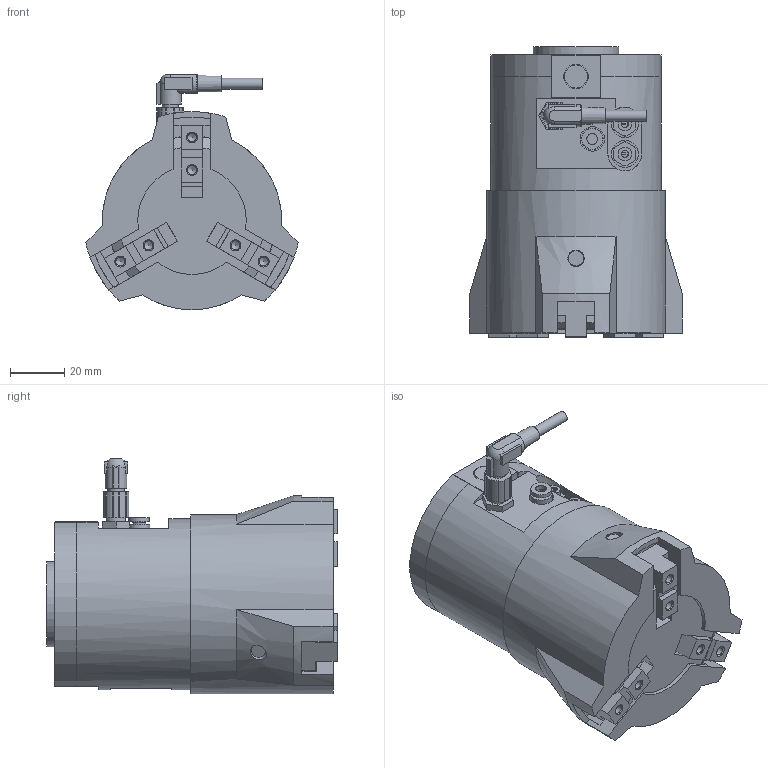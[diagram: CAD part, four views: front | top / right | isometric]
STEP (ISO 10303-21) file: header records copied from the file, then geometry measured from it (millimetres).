
FILE_DESCRIPTION(/* description */ ('STEP AP242','CAx-IF Rec.Pracs.---Representation and Presentation of Product Manufacturing Information (PMI)---4.0---2014-10-13','CAx-IF Rec.Pracs.---3D Tessellated Geometry---0.4---2014-09-14','2;1'),/* implementation_level */ '2;1');
FILE_NAME(/* name */ 'RMHS3-40D-011P-DE(14_0)',/* time_stamp */ '2025-12-02T12:09:31+01:00',/* author */ ('License CC BY-ND 4.0'),/* organization */ ('CADENAS'),/* preprocessor_version */ 'ST-DEVELOPER v20',/* originating_system */ 'PARTsolutions',/* authorisation */ ' ');
FILE_SCHEMA (('AP242_MANAGED_MODEL_BASED_3D_ENGINEERING_MIM_LF { 1 0 10303 442 1 1 4 }'));
Length unit declared in the file: millimetre
Products named in the file (10): RMHS3-40D-011P-DE(14_0); RMHZ2-20D_RMHS3_BASE; RMH-A00-09-A_011; V114-5MOU-X647; RMH-A26-01(0)_BODY; RMH-A26-08; BMG2-012_RMHS3; RMH-A00-05-N; RMHS3-40D(0)_FINGER; RMH-A00-11-A_011
Assembly tree (14 placements, depth 2):
  RMHS3-40D-011P-DE(14_0)
    RMHZ2-20D_RMHS3_BASE
    RMH-A00-09-A_011
    V114-5MOU-X647  x2
    RMH-A26-01(0)_BODY
    RMH-A26-08
    BMG2-012_RMHS3  x2
    RMH-A00-05-N  x2
    RMHS3-40D(0)_FINGER  x3
    RMH-A00-11-A_011
Bounding box: 78.3 x 107 x 86.8 mm (x, y, z)
Volume: 316909.2 mm3; surface area: 93158.5 mm2
Topology: 14 solids, 14 shells, 769 faces, 2016 edges, 1336 vertices
Faces by surface type: plane 543, cylinder 182, cone 35, torus 8, sphere 1
Full cylindrical faces by diameter (mm): 2 x2, 2.459 x3, 2.5 x2, 2.6 x2, 2.621 x2, 2.9 x2, 3.2 x4, 3.242 x6, 4 x2, 4.79 x1, 5 x4, 5.5 x3, 5.8 x1, 6 x4, 6.6 x4, 6.9 x1, 7.7 x1, 8 x2, 8.5 x2, 8.72 x3, 9 x3, 10 x2, 11 x4, 14 x1, 31.5 x3, 62 x1, 63 x2, 66 x1
Entity records: 17469 total; most frequent: CARTESIAN_POINT 3232, DIRECTION 2899, ORIENTED_EDGE 2786, EDGE_CURVE 1393, AXIS2_PLACEMENT_3D 977, VERTEX_POINT 968, LINE 945, VECTOR 945
